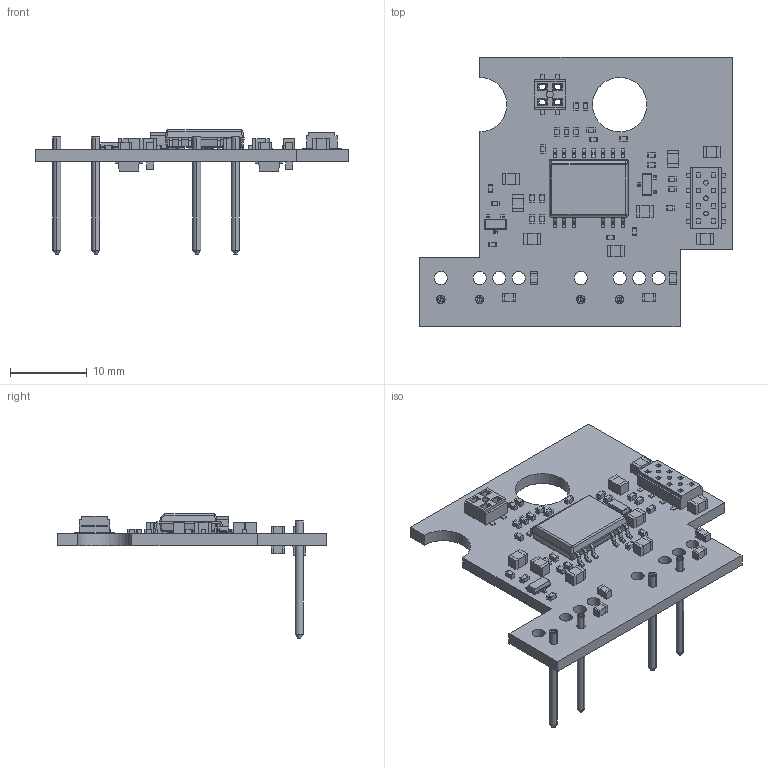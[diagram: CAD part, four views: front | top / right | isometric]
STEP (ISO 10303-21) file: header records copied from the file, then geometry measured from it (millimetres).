
FILE_DESCRIPTION(('Open CASCADE Model'),'2;1');
FILE_NAME('Open CASCADE Shape Model','2019-04-07T07:58:16',('Author'),( 'Open CASCADE'),'Open CASCADE STEP processor 6.8','Open CASCADE 6.8' ,'Unknown');
FILE_SCHEMA(('AUTOMOTIVE_DESIGN { 1 0 10303 214 1 1 1 1 }'));
Length unit declared in the file: millimetre
Products named in the file (91): PCB; Board; TP700; 3104-2; TP701; TP702; TP703; R714; 96298976; Extruded; 96299112; R713; 96299248; 96299384; R711; R709; R707; R706; D701; SOD123F; SOD123F_body; SOD123F_polarity; SOD123F_pins; D700; J701; Conn_CLT-104-02-G-D_HDR8; base; pins; J700; CLT-102-02-G-D-BE; CLT-102-02-G-D-BE_2; CLT-102-02-G-D-BE_1; U702; DWK0014A; BODY-SOIC; LEAD-DW0014; C700; 96298160; 96298296; C701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
Assembly tree (209 placements, depth 4):
  PCB
    Board
    TP700
      3104-2
    TP701
      3104-2
    TP702
      3104-2
    TP703
      3104-2
    R714
      96298976  x2
        Extruded
      96299112
        Extruded
    R713
      96299248  x2
        Extruded
      96299384
        Extruded
    R711
      96299248  x2
        Extruded
      96299384
        Extruded
    R709
      96298976  x2
        Extruded
      96299112
        Extruded
    R707
      96299248  x2
        Extruded
      96299384
        Extruded
    R706
      96299248  x2
        Extruded
      96299384
        Extruded
    D701
      SOD123F
        SOD123F_body
        SOD123F_polarity
        SOD123F_pins
    D700
      SOD123F
        SOD123F_body
        SOD123F_polarity
        SOD123F_pins
    J701
      Conn_CLT-104-02-G-D_HDR8
        base
        pins
    J700
      CLT-102-02-G-D-BE
        CLT-102-02-G-D-BE_2
        CLT-102-02-G-D-BE_1
    U702
      DWK0014A
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Bounding box: 40.89 x 35.18 x 16.2 mm (x, y, z)
Volume: 2085.6 mm3; surface area: 3778.6 mm2
Topology: 156 solids, 156 shells, 1417 faces, 3137 edges, 2048 vertices
Faces by surface type: plane 1218, cylinder 173, cone 16, sphere 10
Full cylindrical faces by diameter (mm): 0.6 x3, 0.86 x4, 0.889 x1, 1.092 x4, 1.702 x8, 7.112 x1
Entity records: 16679 total; most frequent: CARTESIAN_POINT 2915, DIRECTION 2545, ORIENTED_EDGE 2190, EDGE_CURVE 1095, LINE 927, VECTOR 927, AXIS2_PLACEMENT_3D 809, VERTEX_POINT 699
